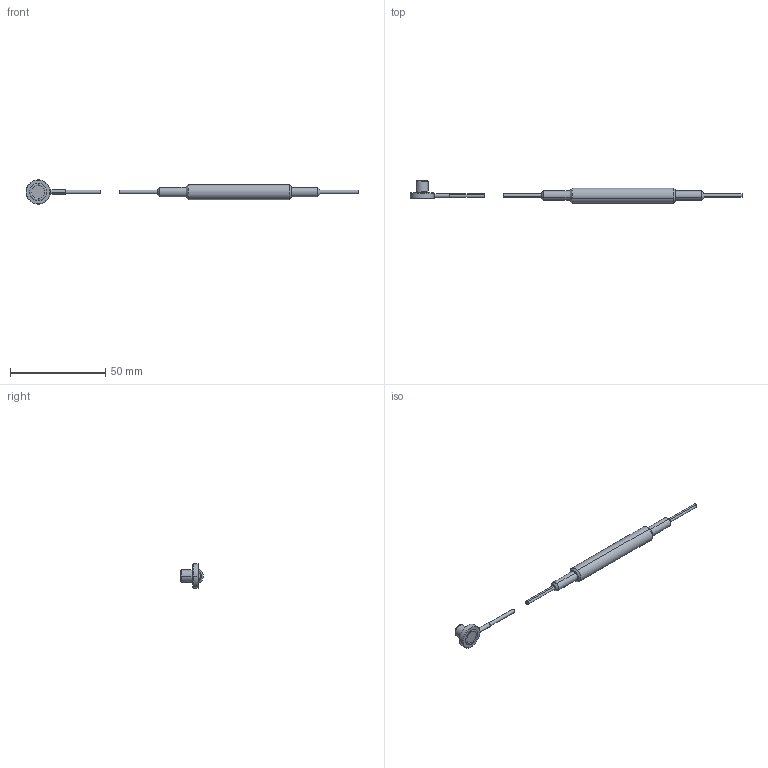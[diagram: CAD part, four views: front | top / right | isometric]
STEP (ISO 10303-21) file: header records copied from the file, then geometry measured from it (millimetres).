
FILE_DESCRIPTION(('STEP AP203'),'1');
FILE_NAME('C:/TPO v2/SharedFS/Outgoing/burster_8402-6001_m3t2asum4zzxlrr1fbwk3p6j.stp','2013-08-27T15:23:22',('TraceParts'),('TraceParts S.A.'),'XStep 1.0',' ',' ');
FILE_SCHEMA(('CONFIG_CONTROL_DESIGN'));
Length unit declared in the file: millimetre
Products named in the file (2): 1; 2
Bounding box: 173.85 x 11.85 x 12.7 mm (x, y, z)
Volume: 4085.9 mm3; surface area: 2786.4 mm2
Topology: 2 solids, 2 shells, 56 faces, 130 edges, 85 vertices
Faces by surface type: cylinder 20, torus 14, plane 11, cone 10, sphere 1
Entity records: 1817 total; most frequent: CARTESIAN_POINT 365, DIRECTION 335, ORIENTED_EDGE 260, AXIS2_PLACEMENT_3D 153, EDGE_CURVE 130, CIRCLE 95, VERTEX_POINT 85, EDGE_LOOP 63
